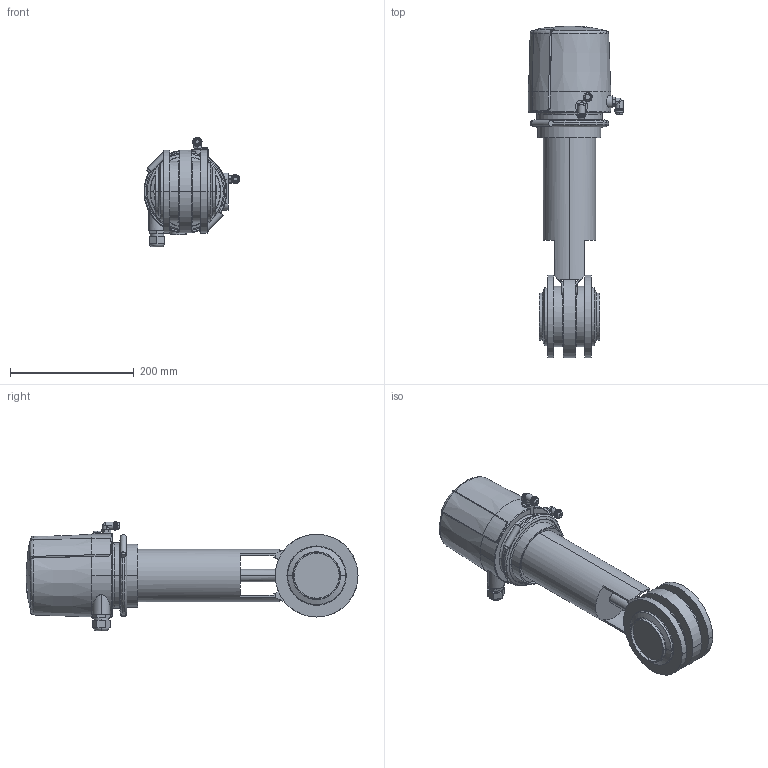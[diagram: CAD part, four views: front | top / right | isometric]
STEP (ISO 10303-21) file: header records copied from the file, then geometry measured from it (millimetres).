
FILE_DESCRIPTION(('Creo Elements/Direct Modeling STEP Export'),'2;1');
FILE_NAME('SVS1F-3zoll-CU4.stp','2013-05-24T12:08:22',(''),(''),'Creo Elements/Direct Modeling STEP processor for AP214 (Solid Model)','Creo Elements/Direct Modeling 17.0D 15-Jul-2011 (C) Parametric Technology GmbH','');
FILE_SCHEMA(('AUTOMOTIVE_DESIGN { 1 0 10303 214 1 1 1 1 }'));
Length unit declared in the file: millimetre
Products named in the file (4): Luftanschluß; SVS1F-3zoll; CU41-mit-T-Adapter; SVS1F-3zoll-CU4
Assembly tree (3 placements, depth 2):
  SVS1F-3zoll-CU4
    CU41-mit-T-Adapter
    SVS1F-3zoll
    Luftanschluß
Bounding box: 155.4 x 537.44 x 177.6 mm (x, y, z)
Volume: 4010639.8 mm3; surface area: 306026.7 mm2
Topology: 3 solids, 9 shells, 477 faces, 1201 edges, 761 vertices
Faces by surface type: plane 213, cylinder 153, torus 55, cone 40, bspline 10, sphere 6
Entity records: 23678 total; most frequent: CARTESIAN_POINT 12034, ORIENTED_EDGE 2414, DIRECTION 2083, EDGE_CURVE 1199, AXIS2_PLACEMENT_3D 794, VERTEX_POINT 761, EDGE_LOOP 524, VECTOR 495
